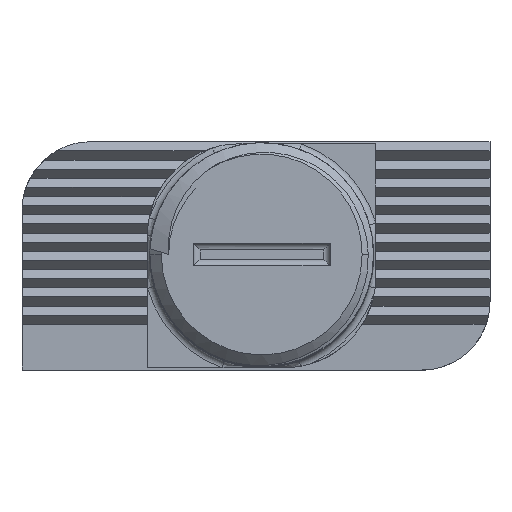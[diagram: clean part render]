
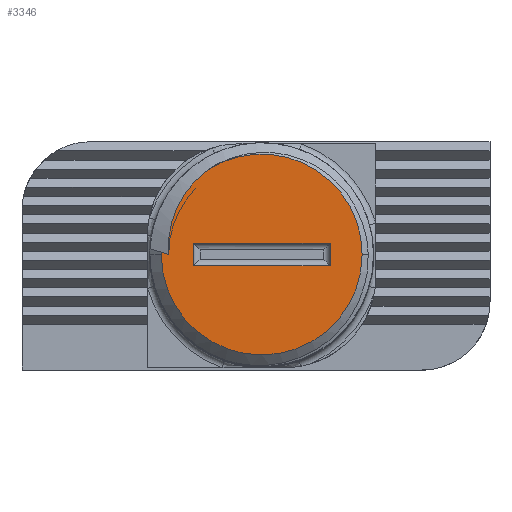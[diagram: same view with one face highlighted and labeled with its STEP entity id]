
A CAD part, top view. The second image highlights one B-rep face of the part: STEP entity #3346.
In plain terms, the highlighted planar face has unit normal (0, 0, 1).
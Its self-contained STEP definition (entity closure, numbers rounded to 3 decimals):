
#120 = ORIENTED_EDGE ( 'NONE', *, *, #316, .T. ) ;
#316 = EDGE_CURVE ( 'NONE', #3896, #1591, #940, .T. ) ;
#359 = DIRECTION ( 'NONE',  ( 1., 0., 0. ) ) ;
#363 = ORIENTED_EDGE ( 'NONE', *, *, #606, .T. ) ;
#503 = EDGE_LOOP ( 'NONE', ( #5177, #3923, #363, #120, #2645 ) ) ;
#594 = ORIENTED_EDGE ( 'NONE', *, *, #5873, .F. ) ;
#606 = EDGE_CURVE ( 'NONE', #1900, #3896, #5986, .T. ) ;
#687 = CARTESIAN_POINT ( 'NONE',  ( 2., -0.853, 39.5 ) ) ;
#720 = VERTEX_POINT ( 'NONE', #687 ) ;
#742 = CARTESIAN_POINT ( 'NONE',  ( -4.994, 0.878, 39.5 ) ) ;
#936 = DIRECTION ( 'NONE',  ( 0., 0., 1. ) ) ;
#940 = CIRCLE ( 'NONE', #5779, 4.4 ) ;
#1353 = CARTESIAN_POINT ( 'NONE',  ( -4.845, 1.388, 39.5 ) ) ;
#1379 = CARTESIAN_POINT ( 'NONE',  ( 3.4, -0.353, 39.5 ) ) ;
#1420 = CARTESIAN_POINT ( 'NONE',  ( -1., -0.353, 39.5 ) ) ;
#1425 = CARTESIAN_POINT ( 'NONE',  ( -1.371, -1.526, 39.5 ) ) ;
#1468 = ORIENTED_EDGE ( 'NONE', *, *, #6796, .F. ) ;
#1591 = VERTEX_POINT ( 'NONE', #7079 ) ;
#1721 = CARTESIAN_POINT ( 'NONE',  ( -4., 0.147, 39.5 ) ) ;
#1870 = VECTOR ( 'NONE', #5398, 1000. ) ;
#1900 = VERTEX_POINT ( 'NONE', #6706 ) ;
#1917 = VECTOR ( 'NONE', #6203, 1000. ) ;
#1950 = CARTESIAN_POINT ( 'NONE',  ( -4.561, 2.031, 39.5 ) ) ;
#2013 = DIRECTION ( 'NONE',  ( 1., 0., 0. ) ) ;
#2050 = LINE ( 'NONE', #7274, #1870 ) ;
#2306 = CARTESIAN_POINT ( 'NONE',  ( -4., 0.147, 39.5 ) ) ;
#2373 = VERTEX_POINT ( 'NONE', #1721 ) ;
#2483 = CARTESIAN_POINT ( 'NONE',  ( -4., 0.147, 39.5 ) ) ;
#2534 = CARTESIAN_POINT ( 'NONE',  ( 2., 0.147, 39.5 ) ) ;
#2563 = CARTESIAN_POINT ( 'NONE',  ( -4.038, 2.746, 39.5 ) ) ;
#2584 = FACE_BOUND ( 'NONE', #4553, .T. ) ;
#2645 = ORIENTED_EDGE ( 'NONE', *, *, #3887, .F. ) ;
#2697 = CARTESIAN_POINT ( 'NONE',  ( -4., -0.853, 39.5 ) ) ;
#2821 = VECTOR ( 'NONE', #6476, 1000. ) ;
#2977 = DIRECTION ( 'NONE',  ( 0., 0., 1. ) ) ;
#2992 = EDGE_CURVE ( 'NONE', #6218, #5845, #6695, .T. ) ;
#3132 = CARTESIAN_POINT ( 'NONE',  ( -5.08, -0.353, 39.5 ) ) ;
#3158 = CARTESIAN_POINT ( 'NONE',  ( -3.665, 3.12, 39.5 ) ) ;
#3282 = VECTOR ( 'NONE', #7283, 1000. ) ;
#3298 = CARTESIAN_POINT ( 'NONE',  ( -5.08, -0.353, 39.5 ) ) ;
#3334 = CARTESIAN_POINT ( 'NONE',  ( -1., -0.353, 39.5 ) ) ;
#3346 = ADVANCED_FACE ( 'NONE', ( #2584, #3782 ), #4513, .T. ) ;
#3347 = VECTOR ( 'NONE', #5977, 1000. ) ;
#3467 = LINE ( 'NONE', #2483, #3282 ) ;
#3641 = EDGE_CURVE ( 'NONE', #5845, #1900, #7273, .T. ) ;
#3750 = CARTESIAN_POINT ( 'NONE',  ( -3.388, 3.343, 39.5 ) ) ;
#3782 = FACE_OUTER_BOUND ( 'NONE', #503, .T. ) ;
#3887 = EDGE_CURVE ( 'NONE', #6218, #1591, #6639, .T. ) ;
#3896 = VERTEX_POINT ( 'NONE', #1379 ) ;
#3923 = ORIENTED_EDGE ( 'NONE', *, *, #3641, .T. ) ;
#3938 = DIRECTION ( 'NONE',  ( 0., 0., 1. ) ) ;
#4336 = CARTESIAN_POINT ( 'NONE',  ( -5.088, 0.355, 39.5 ) ) ;
#4513 = PLANE ( 'NONE',  #5497 ) ;
#4523 = CARTESIAN_POINT ( 'NONE',  ( -1., -0.353, 39.5 ) ) ;
#4553 = EDGE_LOOP ( 'NONE', ( #594, #4991, #1468, #7756 ) ) ;
#4588 = LINE ( 'NONE', #2306, #2821 ) ;
#4766 = VERTEX_POINT ( 'NONE', #2697 ) ;
#4918 = CARTESIAN_POINT ( 'NONE',  ( -4.951, 1.052, 39.5 ) ) ;
#4928 = LINE ( 'NONE', #7191, #3347 ) ;
#4991 = ORIENTED_EDGE ( 'NONE', *, *, #6540, .F. ) ;
#5108 = DIRECTION ( 'NONE',  ( 1., 0., 0. ) ) ;
#5177 = ORIENTED_EDGE ( 'NONE', *, *, #2992, .T. ) ;
#5398 = DIRECTION ( 'NONE',  ( 0., 1., 0. ) ) ;
#5497 = AXIS2_PLACEMENT_3D ( 'NONE', #3334, #3938, #359 ) ;
#5517 = CARTESIAN_POINT ( 'NONE',  ( -4.781, 1.552, 39.5 ) ) ;
#5587 = DIRECTION ( 'NONE',  ( 0., 0., 1. ) ) ;
#5779 = AXIS2_PLACEMENT_3D ( 'NONE', #1420, #5587, #2013 ) ;
#5845 = VERTEX_POINT ( 'NONE', #6049 ) ;
#5873 = EDGE_CURVE ( 'NONE', #2373, #4766, #3467, .T. ) ;
#5940 = VERTEX_POINT ( 'NONE', #2534 ) ;
#5977 = DIRECTION ( 'NONE',  ( 1., 0., 0. ) ) ;
#5986 = CIRCLE ( 'NONE', #6047, 4.4 ) ;
#6047 = AXIS2_PLACEMENT_3D ( 'NONE', #4523, #936, #5108 ) ;
#6049 = CARTESIAN_POINT ( 'NONE',  ( -5.399, -0.252, 39.5 ) ) ;
#6127 = CARTESIAN_POINT ( 'NONE',  ( -4.371, 2.337, 39.5 ) ) ;
#6203 = DIRECTION ( 'NONE',  ( -0.953, 0.301, 0. ) ) ;
#6218 = VERTEX_POINT ( 'NONE', #3298 ) ;
#6476 = DIRECTION ( 'NONE',  ( -1., 0., 0. ) ) ;
#6540 = EDGE_CURVE ( 'NONE', #5940, #2373, #4588, .T. ) ;
#6549 = CARTESIAN_POINT ( 'NONE',  ( -1., -0.353, 39.5 ) ) ;
#6639 = B_SPLINE_CURVE_WITH_KNOTS ( 'NONE', 3,
 ( #3132, #6711, #4336, #742, #4918, #1353, #5517, #1950, #6127, #2563, #6736, #3158, #7360, #3750 ),
 .UNSPECIFIED., .F., .F.,
 ( 4, 2, 2, 2, 2, 2, 4 ),
 ( 0., 0.001, 0.002, 0.002, 0.003, 0.004, 0.004 ),
 .UNSPECIFIED. ) ;
#6695 = LINE ( 'NONE', #1425, #1917 ) ;
#6706 = CARTESIAN_POINT ( 'NONE',  ( -5.4, -0.353, 39.5 ) ) ;
#6711 = CARTESIAN_POINT ( 'NONE',  ( -5.106, 0.003, 39.5 ) ) ;
#6716 = AXIS2_PLACEMENT_3D ( 'NONE', #6549, #2977, #7174 ) ;
#6736 = CARTESIAN_POINT ( 'NONE',  ( -3.919, 2.875, 39.5 ) ) ;
#6796 = EDGE_CURVE ( 'NONE', #720, #5940, #2050, .T. ) ;
#7058 = EDGE_CURVE ( 'NONE', #4766, #720, #4928, .T. ) ;
#7079 = CARTESIAN_POINT ( 'NONE',  ( -3.388, 3.343, 39.5 ) ) ;
#7174 = DIRECTION ( 'NONE',  ( 1., 0., 0. ) ) ;
#7191 = CARTESIAN_POINT ( 'NONE',  ( -4., -0.853, 39.5 ) ) ;
#7273 = CIRCLE ( 'NONE', #6716, 4.4 ) ;
#7274 = CARTESIAN_POINT ( 'NONE',  ( 2., 0.147, 39.5 ) ) ;
#7283 = DIRECTION ( 'NONE',  ( 0., -1., 0. ) ) ;
#7360 = CARTESIAN_POINT ( 'NONE',  ( -3.529, 3.236, 39.5 ) ) ;
#7756 = ORIENTED_EDGE ( 'NONE', *, *, #7058, .F. ) ;
